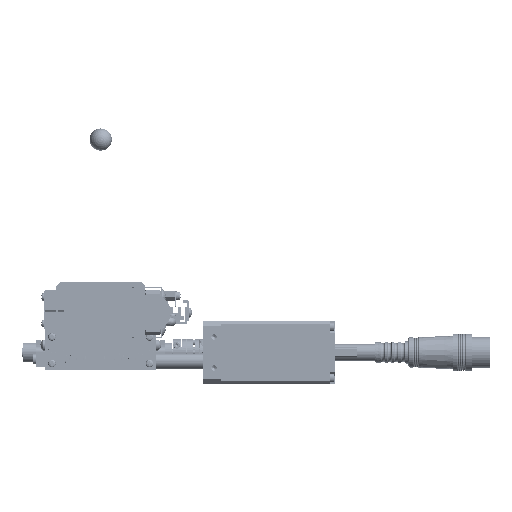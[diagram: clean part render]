
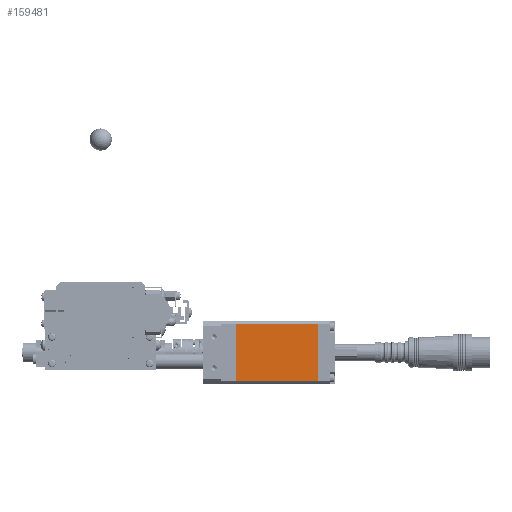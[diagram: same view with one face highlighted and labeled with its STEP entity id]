
A CAD part, front view. The second image highlights one B-rep face of the part: STEP entity #159481.
In plain terms, the highlighted planar face has unit normal (0, -1, 0).
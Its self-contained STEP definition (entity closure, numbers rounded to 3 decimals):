
#1112 = DIRECTION ( 'NONE',  ( 0., -1., 0. ) ) ;
#3701 = ORIENTED_EDGE ( 'NONE', *, *, #135287, .F. ) ;
#6845 = VECTOR ( 'NONE', #126941, 1000. ) ;
#21325 = CARTESIAN_POINT ( 'NONE',  ( 61., -14., 20.845 ) ) ;
#30092 = FACE_OUTER_BOUND ( 'NONE', #52566, .T. ) ;
#30747 = AXIS2_PLACEMENT_3D ( 'NONE', #102935, #1112, #153579 ) ;
#38668 = VECTOR ( 'NONE', #134840, 1000. ) ;
#39225 = EDGE_CURVE ( 'NONE', #138248, #58738, #105221, .T. ) ;
#42047 = VERTEX_POINT ( 'NONE', #146760 ) ;
#43762 = VECTOR ( 'NONE', #133631, 1000. ) ;
#48282 = EDGE_CURVE ( 'NONE', #158568, #138248, #63900, .T. ) ;
#52566 = EDGE_LOOP ( 'NONE', ( #3701, #118803, #127969, #120069 ) ) ;
#58738 = VERTEX_POINT ( 'NONE', #112217 ) ;
#61277 = EDGE_CURVE ( 'NONE', #42047, #58738, #65310, .T. ) ;
#63900 = LINE ( 'NONE', #160061, #43762 ) ;
#65107 = DIRECTION ( 'NONE',  ( 0., 0., -1. ) ) ;
#65310 = LINE ( 'NONE', #112909, #6845 ) ;
#72889 = LINE ( 'NONE', #96011, #38668 ) ;
#96011 = CARTESIAN_POINT ( 'NONE',  ( 97.99, -14., -4.845 ) ) ;
#102238 = CARTESIAN_POINT ( 'NONE',  ( 61., -14., -4.845 ) ) ;
#102935 = CARTESIAN_POINT ( 'NONE',  ( 105.5, -14., -4.845 ) ) ;
#105221 = LINE ( 'NONE', #102238, #163687 ) ;
#105682 = CARTESIAN_POINT ( 'NONE',  ( 97.99, -14., 20.845 ) ) ;
#112217 = CARTESIAN_POINT ( 'NONE',  ( 61., -14., -4.845 ) ) ;
#112909 = CARTESIAN_POINT ( 'NONE',  ( 105.5, -14., -4.845 ) ) ;
#118803 = ORIENTED_EDGE ( 'NONE', *, *, #48282, .T. ) ;
#120069 = ORIENTED_EDGE ( 'NONE', *, *, #61277, .F. ) ;
#126941 = DIRECTION ( 'NONE',  ( -1., 0., 0. ) ) ;
#127969 = ORIENTED_EDGE ( 'NONE', *, *, #39225, .T. ) ;
#133631 = DIRECTION ( 'NONE',  ( -1., 0., 0. ) ) ;
#134840 = DIRECTION ( 'NONE',  ( 0., 0., -1. ) ) ;
#135287 = EDGE_CURVE ( 'NONE', #158568, #42047, #72889, .T. ) ;
#138248 = VERTEX_POINT ( 'NONE', #21325 ) ;
#142345 = PLANE ( 'NONE',  #30747 ) ;
#146760 = CARTESIAN_POINT ( 'NONE',  ( 97.99, -14., -4.845 ) ) ;
#153579 = DIRECTION ( 'NONE',  ( 0., 0., 1. ) ) ;
#158568 = VERTEX_POINT ( 'NONE', #105682 ) ;
#159481 = ADVANCED_FACE ( 'NONE', ( #30092 ), #142345, .T. ) ;
#160061 = CARTESIAN_POINT ( 'NONE',  ( 105.5, -14., 20.845 ) ) ;
#163687 = VECTOR ( 'NONE', #65107, 1000. ) ;
